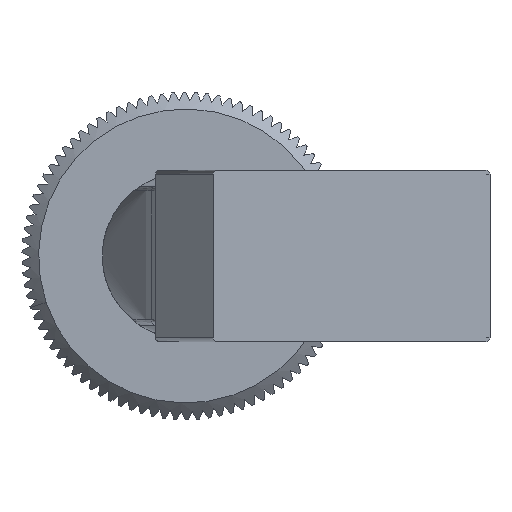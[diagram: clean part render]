
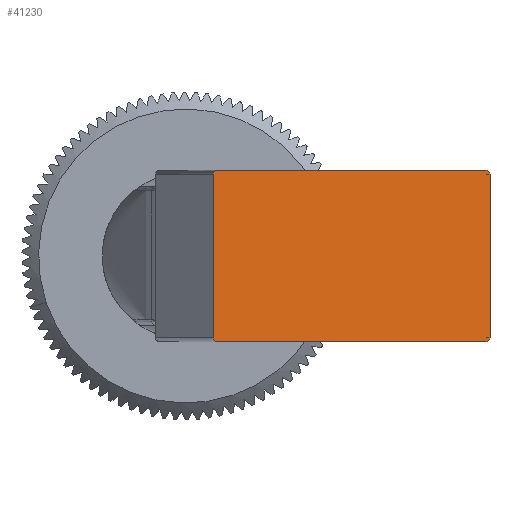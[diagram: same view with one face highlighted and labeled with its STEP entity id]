
A CAD part, left-side view. The second image highlights one B-rep face of the part: STEP entity #41230.
In plain terms, the highlighted planar face has unit normal (-0.998, -0.07, 0).
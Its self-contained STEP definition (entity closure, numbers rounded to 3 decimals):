
#394 = CARTESIAN_POINT ( 'NONE',  ( 0.045, -4.5, -0.15 ) ) ;
#721 = DIRECTION ( 'NONE',  ( 0., 0., -1. ) ) ;
#767 = CARTESIAN_POINT ( 'NONE',  ( 0.742, -14.476, -6.138 ) ) ;
#1640 = DIRECTION ( 'NONE',  ( -0.998, -0.07, 0. ) ) ;
#2440 = CARTESIAN_POINT ( 'NONE',  ( 0.742, -14.476, -6.05 ) ) ;
#4276 = CARTESIAN_POINT ( 'NONE',  ( 0.738, -14.413, -6.2 ) ) ;
#4413 = DIRECTION ( 'NONE',  ( 0.07, -0.998, 0. ) ) ;
#5393 = VERTEX_POINT ( 'NONE', #2440 ) ;
#7200 = CARTESIAN_POINT ( 'NONE',  ( 0.732, -14.325, 0. ) ) ;
#7552 = CARTESIAN_POINT ( 'NONE',  ( 0.394, -9.488, -6.2 ) ) ;
#7842 = CARTESIAN_POINT ( 'NONE',  ( 0.742, -14.476, -6.05 ) ) ;
#8085 = CARTESIAN_POINT ( 'NONE',  ( 0.055, -4.65, -6.2 ) ) ;
#8997 = CARTESIAN_POINT ( 'NONE',  ( 0.055, -4.65, 0. ) ) ;
#9519 = EDGE_CURVE ( 'NONE', #42953, #27611, #39911, .T. ) ;
#10151 = EDGE_LOOP ( 'NONE', ( #18217, #19140, #23784, #28039, #29010, #31777, #31185, #19960 ) ) ;
#10276 = CIRCLE ( 'NONE', #36590, 0.15 ) ;
#10425 = VECTOR ( 'NONE', #721, 1000. ) ;
#11446 = CARTESIAN_POINT ( 'NONE',  ( 0.742, -14.476, 0. ) ) ;
#11912 = CARTESIAN_POINT ( 'NONE',  ( 0.742, -14.476, -0.062 ) ) ;
#12060 = CARTESIAN_POINT ( 'NONE',  ( 0.738, -14.413, 0. ) ) ;
#13377 = EDGE_CURVE ( 'NONE', #40821, #5393, #37069, .T. ) ;
#15362 = DIRECTION ( 'NONE',  ( 0.07, -0.998, 0. ) ) ;
#15972 = CIRCLE ( 'NONE', #19797, 0.15 ) ;
#16221 = EDGE_CURVE ( 'NONE', #40821, #27611, #39894, .T. ) ;
#17081 = EDGE_CURVE ( 'NONE', #35322, #32589, #10276, .T. ) ;
#18217 = ORIENTED_EDGE ( 'NONE', *, *, #9519, .F. ) ;
#18457 = EDGE_CURVE ( 'NONE', #42953, #24467, #15972, .T. ) ;
#18808 = CARTESIAN_POINT ( 'NONE',  ( 0.394, -9.488, 0. ) ) ;
#18960 = VECTOR ( 'NONE', #36639, 1000. ) ;
#19006 = AXIS2_PLACEMENT_3D ( 'NONE', #18808, #1640, #15362 ) ;
#19140 = ORIENTED_EDGE ( 'NONE', *, *, #18457, .T. ) ;
#19150 = DIRECTION ( 'NONE',  ( -0.998, -0.07, 0. ) ) ;
#19680 = CARTESIAN_POINT ( 'NONE',  ( 0.742, -14.476, -0.15 ) ) ;
#19797 = AXIS2_PLACEMENT_3D ( 'NONE', #29352, #43214, #32913 ) ;
#19960 = ORIENTED_EDGE ( 'NONE', *, *, #16221, .T. ) ;
#20997 = LINE ( 'NONE', #36657, #10425 ) ;
#21702 = VECTOR ( 'NONE', #4413, 1000. ) ;
#22013 = DIRECTION ( 'NONE',  ( 0., 0., -1. ) ) ;
#22382 = PLANE ( 'NONE',  #19006 ) ;
#22561 = DIRECTION ( 'NONE',  ( 0.07, -0.998, 0. ) ) ;
#23784 = ORIENTED_EDGE ( 'NONE', *, *, #27741, .T. ) ;
#24467 = VERTEX_POINT ( 'NONE', #394 ) ;
#24945 = CARTESIAN_POINT ( 'NONE',  ( 0.055, -4.65, -6.05 ) ) ;
#27611 = VERTEX_POINT ( 'NONE', #7200 ) ;
#27741 = EDGE_CURVE ( 'NONE', #24467, #35322, #20997, .T. ) ;
#28039 = ORIENTED_EDGE ( 'NONE', *, *, #17081, .T. ) ;
#28151 = CARTESIAN_POINT ( 'NONE',  ( 0.732, -14.325, -6.2 ) ) ;
#29010 = ORIENTED_EDGE ( 'NONE', *, *, #37745, .T. ) ;
#29352 = CARTESIAN_POINT ( 'NONE',  ( 0.055, -4.65, -0.15 ) ) ;
#31185 = ORIENTED_EDGE ( 'NONE', *, *, #13377, .F. ) ;
#31777 = ORIENTED_EDGE ( 'NONE', *, *, #38797, .T. ) ;
#32589 = VERTEX_POINT ( 'NONE', #8085 ) ;
#32913 = DIRECTION ( 'NONE',  ( 0.07, -0.998, 0. ) ) ;
#33168 =( BOUNDED_CURVE ( )  B_SPLINE_CURVE ( 3, ( #28151, #4276, #767, #7842 ),
 .UNSPECIFIED., .F., .F. ) 
 B_SPLINE_CURVE_WITH_KNOTS ( ( 4, 4 ),
 ( 4.712, 6.283 ),
 .UNSPECIFIED. ) 
 CURVE ( )  GEOMETRIC_REPRESENTATION_ITEM ( )  RATIONAL_B_SPLINE_CURVE ( ( 1., 0.805, 0.805, 1. ) ) 
 REPRESENTATION_ITEM ( '' )  );
#33747 = CARTESIAN_POINT ( 'NONE',  ( 0.732, -14.325, 0. ) ) ;
#35322 = VERTEX_POINT ( 'NONE', #44703 ) ;
#35981 = VECTOR ( 'NONE', #22013, 1000. ) ;
#36023 = FACE_OUTER_BOUND ( 'NONE', #10151, .T. ) ;
#36590 = AXIS2_PLACEMENT_3D ( 'NONE', #24945, #19150, #22561 ) ;
#36639 = DIRECTION ( 'NONE',  ( 0.07, -0.998, 0. ) ) ;
#36657 = CARTESIAN_POINT ( 'NONE',  ( 0.045, -4.5, 0. ) ) ;
#37069 = LINE ( 'NONE', #11446, #35981 ) ;
#37745 = EDGE_CURVE ( 'NONE', #32589, #42507, #44300, .T. ) ;
#38378 = CARTESIAN_POINT ( 'NONE',  ( 0.732, -14.325, -6.2 ) ) ;
#38797 = EDGE_CURVE ( 'NONE', #42507, #5393, #33168, .T. ) ;
#39894 =( BOUNDED_CURVE ( )  B_SPLINE_CURVE ( 3, ( #19680, #11912, #12060, #33747 ),
 .UNSPECIFIED., .F., .T. ) 
 B_SPLINE_CURVE_WITH_KNOTS ( ( 4, 4 ),
 ( 3.142, 4.712 ),
 .UNSPECIFIED. ) 
 CURVE ( )  GEOMETRIC_REPRESENTATION_ITEM ( )  RATIONAL_B_SPLINE_CURVE ( ( 1., 0.805, 0.805, 1. ) ) 
 REPRESENTATION_ITEM ( '' )  );
#39911 = LINE ( 'NONE', #44052, #18960 ) ;
#40821 = VERTEX_POINT ( 'NONE', #44005 ) ;
#41230 = ADVANCED_FACE ( 'NONE', ( #36023 ), #22382, .T. ) ;
#42507 = VERTEX_POINT ( 'NONE', #38378 ) ;
#42953 = VERTEX_POINT ( 'NONE', #8997 ) ;
#43214 = DIRECTION ( 'NONE',  ( -0.998, -0.07, 0. ) ) ;
#44005 = CARTESIAN_POINT ( 'NONE',  ( 0.742, -14.476, -0.15 ) ) ;
#44052 = CARTESIAN_POINT ( 'NONE',  ( 0.059, -4.7, 0. ) ) ;
#44300 = LINE ( 'NONE', #7552, #21702 ) ;
#44703 = CARTESIAN_POINT ( 'NONE',  ( 0.045, -4.5, -6.05 ) ) ;
